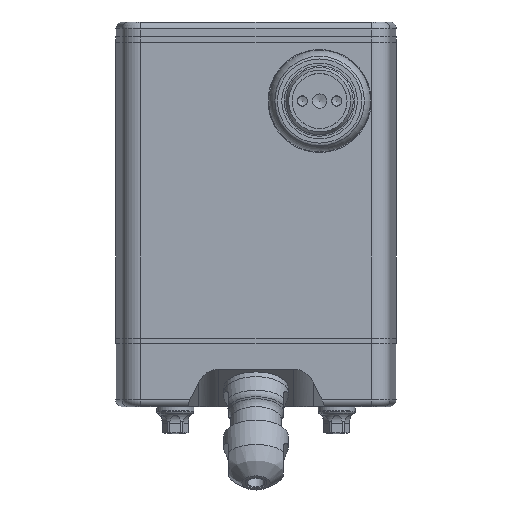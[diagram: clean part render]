
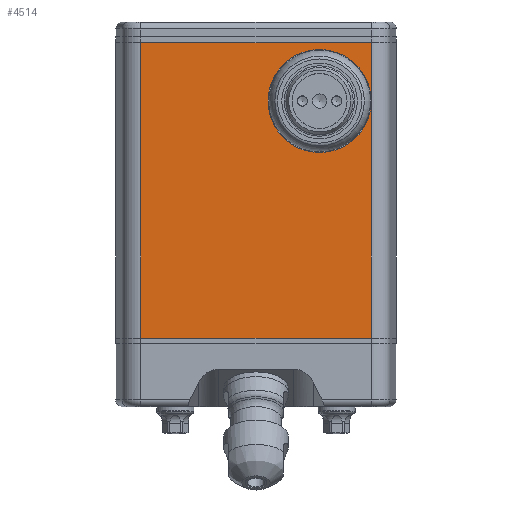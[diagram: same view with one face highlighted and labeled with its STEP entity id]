
A CAD part, left-side view. The second image highlights one B-rep face of the part: STEP entity #4514.
In plain terms, the highlighted planar face has unit normal (-1, 0, 0).
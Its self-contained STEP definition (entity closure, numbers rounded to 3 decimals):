
#103=FACE_BOUND('',#641,.T.);
#384=FACE_OUTER_BOUND('',#640,.T.);
#640=EDGE_LOOP('',(#3338,#3339,#3340,#3341));
#641=EDGE_LOOP('',(#3342,#3343));
#934=CIRCLE('',#4956,8.25);
#935=CIRCLE('',#4957,8.25);
#1370=LINE('',#8508,#1631);
#1371=LINE('',#8511,#1632);
#1372=LINE('',#8513,#1633);
#1373=LINE('',#8514,#1634);
#1631=VECTOR('',#5863,10.);
#1632=VECTOR('',#5866,10.);
#1633=VECTOR('',#5867,10.);
#1634=VECTOR('',#5868,10.);
#1909=VERTEX_POINT('',#8478);
#1910=VERTEX_POINT('',#8479);
#1919=VERTEX_POINT('',#8504);
#1920=VERTEX_POINT('',#8506);
#1921=VERTEX_POINT('',#8510);
#1922=VERTEX_POINT('',#8512);
#2447=EDGE_CURVE('',#1909,#1910,#934,.T.);
#2448=EDGE_CURVE('',#1910,#1909,#935,.T.);
#2461=EDGE_CURVE('',#1919,#1920,#1370,.T.);
#2462=EDGE_CURVE('',#1921,#1919,#1371,.T.);
#2463=EDGE_CURVE('',#1922,#1920,#1372,.T.);
#2464=EDGE_CURVE('',#1921,#1922,#1373,.T.);
#3338=ORIENTED_EDGE('',*,*,#2462,.T.);
#3339=ORIENTED_EDGE('',*,*,#2461,.T.);
#3340=ORIENTED_EDGE('',*,*,#2463,.F.);
#3341=ORIENTED_EDGE('',*,*,#2464,.F.);
#3342=ORIENTED_EDGE('',*,*,#2447,.T.);
#3343=ORIENTED_EDGE('',*,*,#2448,.T.);
#4296=PLANE('',#4970);
#4514=ADVANCED_FACE('',(#384,#103),#4296,.T.);
#4956=AXIS2_PLACEMENT_3D('',#8480,#5831,#5832);
#4957=AXIS2_PLACEMENT_3D('',#8481,#5833,#5834);
#4970=AXIS2_PLACEMENT_3D('',#8509,#5864,#5865);
#5831=DIRECTION('center_axis',(1.,0.,0.));
#5832=DIRECTION('ref_axis',(0.,0.,1.));
#5833=DIRECTION('center_axis',(1.,0.,0.));
#5834=DIRECTION('ref_axis',(0.,0.,1.));
#5863=DIRECTION('',(0.,0.,-1.));
#5864=DIRECTION('center_axis',(-1.,0.,0.));
#5865=DIRECTION('ref_axis',(0.,1.,0.));
#5866=DIRECTION('',(0.,1.,0.));
#5867=DIRECTION('',(0.,1.,0.));
#5868=DIRECTION('',(0.,0.,-1.));
#8478=CARTESIAN_POINT('',(-57.5,-18.5,-8.75));
#8479=CARTESIAN_POINT('',(-57.5,-18.5,-25.25));
#8480=CARTESIAN_POINT('Origin',(-57.5,-18.5,-17.));
#8481=CARTESIAN_POINT('Origin',(-57.5,-18.5,-17.));
#8504=CARTESIAN_POINT('',(-57.5,33.5,0.));
#8506=CARTESIAN_POINT('',(-57.5,33.5,-86.));
#8508=CARTESIAN_POINT('',(-57.5,33.5,0.));
#8509=CARTESIAN_POINT('Origin',(-57.5,-33.5,0.));
#8510=CARTESIAN_POINT('',(-57.5,-33.5,0.));
#8511=CARTESIAN_POINT('',(-57.5,-33.5,0.));
#8512=CARTESIAN_POINT('',(-57.5,-33.5,-86.));
#8513=CARTESIAN_POINT('',(-57.5,-33.5,-86.));
#8514=CARTESIAN_POINT('',(-57.5,-33.5,0.));
